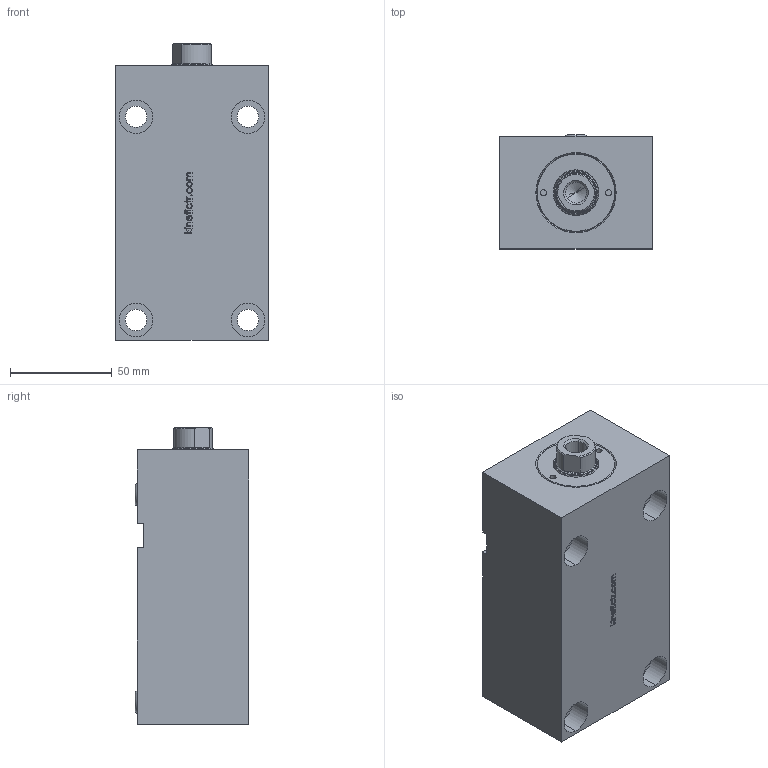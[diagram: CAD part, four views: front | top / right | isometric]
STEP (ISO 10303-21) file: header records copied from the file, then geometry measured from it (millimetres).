
FILE_DESCRIPTION (( 'STEP AP214' ), '1' );
FILE_NAME ('KBZ_11_32_20_85.STEP', '2019-09-15T15:09:01', ( '' ), ( '' ), 'SwSTEP 2.0', 'SolidWorks 2018', '' );
FILE_SCHEMA (( 'AUTOMOTIVE_DESIGN' ));
Length unit declared in the file: millimetre
Products named in the file (6): KBZ_11_32_20_85; KBZ_11_32_ON_kapak_W; KO-6X2_5; K06-20X25X4_3X6; kbz_11_32_20_govde_W; KBZ_11_20_MIL_W
Assembly tree (6 placements, depth 2):
  KBZ_11_32_20_85
    kbz_11_32_20_govde_W
    KBZ_11_20_MIL_W
    KBZ_11_32_ON_kapak_W
    K06-20X25X4_3X6
    KO-6X2_5  x2
Bounding box: 75 x 56 x 146 mm (x, y, z)
Volume: 523204.8 mm3; surface area: 66215.8 mm2
Topology: 6 solids, 6 shells, 325 faces, 785 edges, 504 vertices
Faces by surface type: plane 137, bspline 77, cylinder 62, cone 49
Entity records: 12988 total; most frequent: CARTESIAN_POINT 5553, ORIENTED_EDGE 1550, DIRECTION 1308, EDGE_CURVE 775, VERTEX_POINT 500, LINE 438, VECTOR 438, AXIS2_PLACEMENT_3D 435
